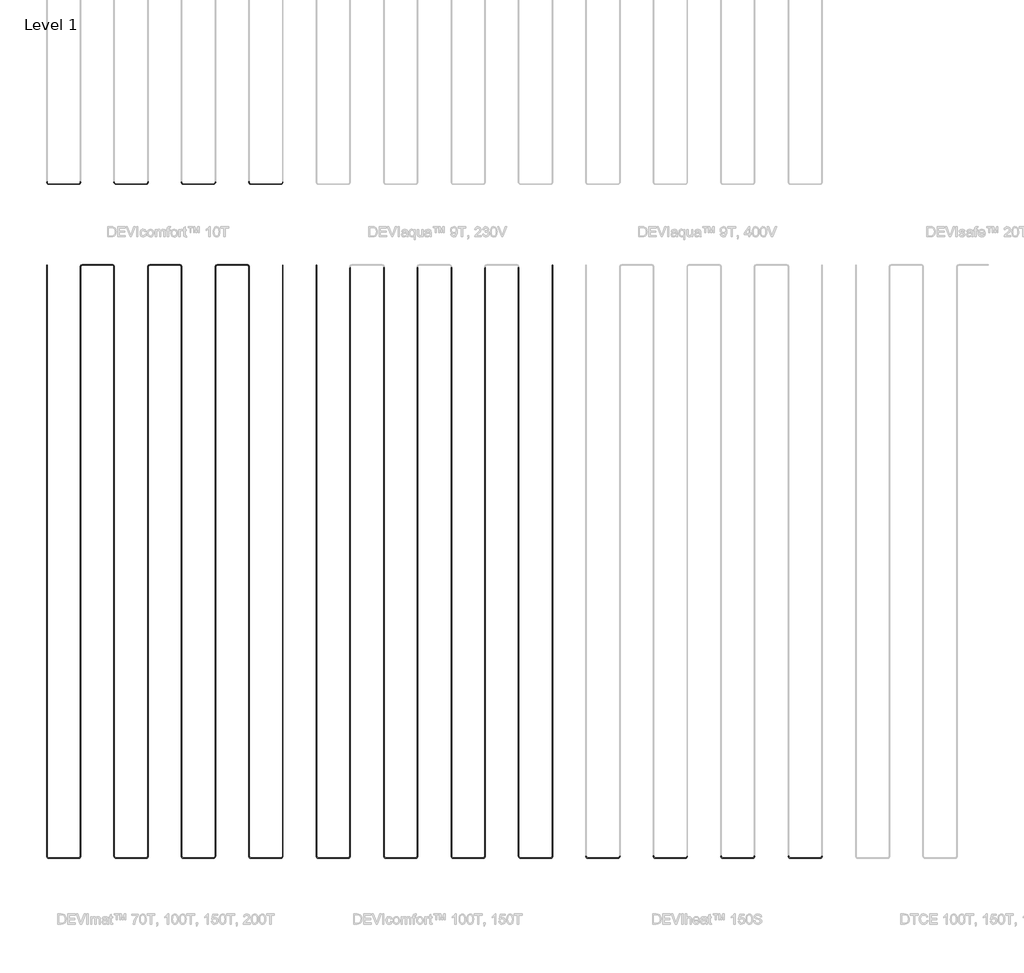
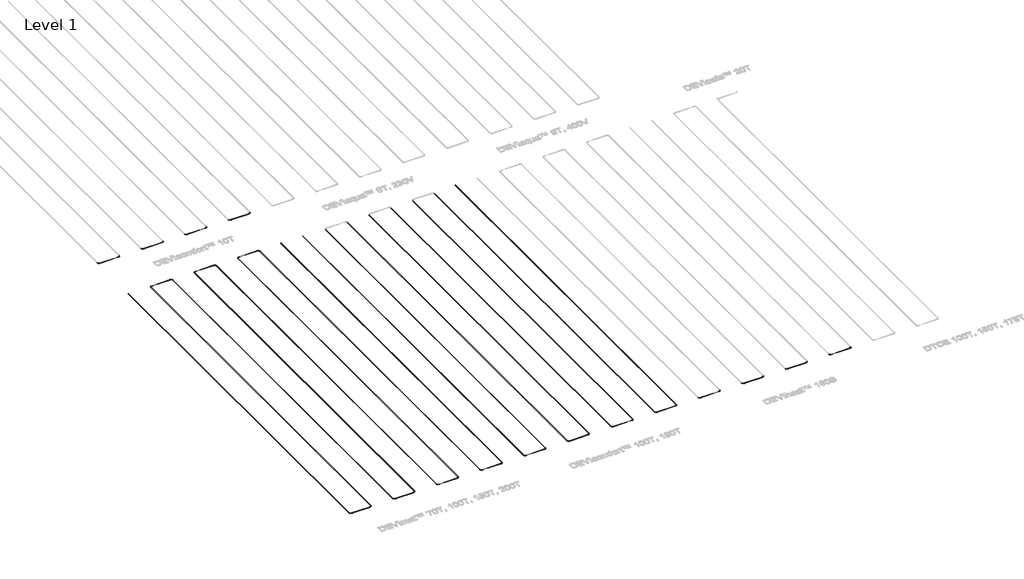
# One storey, part 1 of 26: 38 cable carrier fittings, 35 cable carrier segments.
"""IFC4 building model written with IfcOpenShell, lengths in millimetres."""

from ifc_helpers import new_model, si_unit, point, frame, frame_2d, origin, place, context, project, spatial, circle_curve, trimmed, segment, composite_curve, outline, extrude, transform, mapped, element, save
from components import cable_carrier_fitting_e4b1aeb6

model = new_model("IFC4")

# Units and contexts
model_context = context("Model", 3, world=origin())
ifc_project = project(units=[si_unit("LENGTHUNIT", "METRE", prefix="MILLI")], contexts=[model_context])

# Site, building, storey
site = spatial("IfcSite", under=ifc_project)
building = spatial("IfcBuilding", under=site)
storey = spatial("IfcBuildingStorey", under=building, Name="Level 1", Elevation=0.0)

# Cable carrier fittings
placement = place(None, origin())
cable_carrier_fitting_shape = cable_carrier_fitting_e4b1aeb6(model_context)
element("IfcCableCarrierFitting", 1, ObjectType="Danfoss Elbow : DEVIbasic™ 10S", at=placement, inside=storey, context=model_context, shape_type="MappedRepresentation", body=[
    mapped(cable_carrier_fitting_shape, transform((-11587.3402445, -16738.7894079, -100.0), x_axis=(0.0, -1.0, 0.0), y_axis=(1.0, 0.0, 0.0), z_axis=(0.0, 0.0, 1.0))),
])
element("IfcCableCarrierFitting", 2, ObjectType="Danfoss Elbow : DEVIbasic™ 10S", at=placement, inside=storey, context=model_context, shape_type="MappedRepresentation", body=[
    mapped(cable_carrier_fitting_shape, transform((-11087.3402445, -16738.7894079, -100.0), x_axis=(1.0, 0.0, 0.0), y_axis=(0.0, 1.0, 0.0), z_axis=(0.0, 0.0, 1.0))),
])
element("IfcCableCarrierFitting", 3, ObjectType="Danfoss Elbow : DEVIbasic™ 10S", at=placement, inside=storey, context=model_context, shape_type="MappedRepresentation", body=[
    mapped(cable_carrier_fitting_shape, transform((-10587.3402445, -16738.7894079, -100.0), x_axis=(0.0, -1.0, 0.0), y_axis=(1.0, 0.0, 0.0), z_axis=(0.0, 0.0, 1.0))),
])
element("IfcCableCarrierFitting", 4, ObjectType="Danfoss Elbow : DEVIbasic™ 10S", at=placement, inside=storey, context=model_context, shape_type="MappedRepresentation", body=[
    mapped(cable_carrier_fitting_shape, transform((-10087.3402445, -16738.7894079, -100.0), x_axis=(1.0, 0.0, 0.0), y_axis=(0.0, 1.0, 0.0), z_axis=(0.0, 0.0, 1.0))),
])
element("IfcCableCarrierFitting", 5, ObjectType="Danfoss Elbow : DEVIbasic™ 10S", at=placement, inside=storey, context=model_context, shape_type="MappedRepresentation", body=[
    mapped(cable_carrier_fitting_shape, transform((-9587.3402445, -16738.7894079, -100.0), x_axis=(0.0, -1.0, 0.0), y_axis=(1.0, 0.0, 0.0), z_axis=(0.0, 0.0, 1.0))),
])
element("IfcCableCarrierFitting", 6, ObjectType="Danfoss Elbow : DEVIbasic™ 10S", at=placement, inside=storey, context=model_context, shape_type="MappedRepresentation", body=[
    mapped(cable_carrier_fitting_shape, transform((-9087.3402445, -16738.7894079, -100.0), x_axis=(1.0, 0.0, 0.0), y_axis=(0.0, 1.0, 0.0), z_axis=(0.0, 0.0, 1.0))),
])
element("IfcCableCarrierFitting", 7, ObjectType="Danfoss Elbow : DEVIbasic™ 10S", at=placement, inside=storey, context=model_context, shape_type="MappedRepresentation", body=[
    mapped(cable_carrier_fitting_shape, transform((-8587.3402445, -16738.7894079, -100.0), x_axis=(0.0, -1.0, 0.0), y_axis=(1.0, 0.0, 0.0), z_axis=(0.0, 0.0, 1.0))),
])
element("IfcCableCarrierFitting", 8, ObjectType="Danfoss Elbow : DEVIbasic™ 10S", at=placement, inside=storey, context=model_context, shape_type="MappedRepresentation", body=[
    mapped(cable_carrier_fitting_shape, transform((-8087.3402445, -16738.7894079, -100.0), x_axis=(1.0, 0.0, 0.0), y_axis=(0.0, 1.0, 0.0), z_axis=(0.0, 0.0, 1.0))),
])
element("IfcCableCarrierFitting", 9, ObjectType="Danfoss Elbow : DEVIaqua™ 9T, 230V", at=placement, inside=storey, context=model_context, shape_type="MappedRepresentation", body=[
    mapped(cable_carrier_fitting_shape, transform((-7587.3402445, -26738.7894079, -100.0), x_axis=(0.0, -1.0, 0.0), y_axis=(1.0, 0.0, 0.0), z_axis=(0.0, 0.0, 1.0))),
])
element("IfcCableCarrierFitting", 10, ObjectType="Danfoss Elbow : DEVIaqua™ 9T, 230V", at=placement, inside=storey, context=model_context, shape_type="MappedRepresentation", body=[
    mapped(cable_carrier_fitting_shape, transform((-7087.3402445, -26738.7894079, -100.0), x_axis=(1.0, 0.0, 0.0), y_axis=(0.0, 1.0, 0.0), z_axis=(0.0, 0.0, 1.0))),
])
element("IfcCableCarrierFitting", 11, ObjectType="Danfoss Elbow : DEVIaqua™ 9T, 230V", at=placement, inside=storey, context=model_context, shape_type="MappedRepresentation", body=[
    mapped(cable_carrier_fitting_shape, transform((-6587.3402445, -26738.7894079, -100.0), x_axis=(0.0, -1.0, 0.0), y_axis=(1.0, 0.0, 0.0), z_axis=(0.0, 0.0, 1.0))),
])
element("IfcCableCarrierFitting", 12, ObjectType="Danfoss Elbow : DEVIaqua™ 9T, 230V", at=placement, inside=storey, context=model_context, shape_type="MappedRepresentation", body=[
    mapped(cable_carrier_fitting_shape, transform((-6087.3402445, -26738.7894079, -100.0), x_axis=(1.0, 0.0, 0.0), y_axis=(0.0, 1.0, 0.0), z_axis=(0.0, 0.0, 1.0))),
])
element("IfcCableCarrierFitting", 13, ObjectType="Danfoss Elbow : DEVIaqua™ 9T, 230V", at=placement, inside=storey, context=model_context, shape_type="MappedRepresentation", body=[
    mapped(cable_carrier_fitting_shape, transform((-5587.3402445, -26738.7894079, -100.0), x_axis=(0.0, -1.0, 0.0), y_axis=(1.0, 0.0, 0.0), z_axis=(0.0, 0.0, 1.0))),
])
element("IfcCableCarrierFitting", 14, ObjectType="Danfoss Elbow : DEVIaqua™ 9T, 230V", at=placement, inside=storey, context=model_context, shape_type="MappedRepresentation", body=[
    mapped(cable_carrier_fitting_shape, transform((-5087.3402445, -26738.7894079, -100.0), x_axis=(1.0, 0.0, 0.0), y_axis=(0.0, 1.0, 0.0), z_axis=(0.0, 0.0, 1.0))),
])
element("IfcCableCarrierFitting", 15, ObjectType="Danfoss Elbow : DEVIaqua™ 9T, 230V", at=placement, inside=storey, context=model_context, shape_type="MappedRepresentation", body=[
    mapped(cable_carrier_fitting_shape, transform((-4587.3402445, -26738.7894079, -100.0), x_axis=(0.0, -1.0, 0.0), y_axis=(1.0, 0.0, 0.0), z_axis=(0.0, 0.0, 1.0))),
])
element("IfcCableCarrierFitting", 16, ObjectType="Danfoss Elbow : DEVIaqua™ 9T, 230V", at=placement, inside=storey, context=model_context, shape_type="MappedRepresentation", body=[
    mapped(cable_carrier_fitting_shape, transform((-4087.3402445, -26738.7894079, -100.0), x_axis=(1.0, 0.0, 0.0), y_axis=(0.0, 1.0, 0.0), z_axis=(0.0, 0.0, 1.0))),
])
element("IfcCableCarrierFitting", 17, ObjectType="Danfoss Elbow : DEVIaqua™ 9T, 400V", at=placement, inside=storey, context=model_context, shape_type="MappedRepresentation", body=[
    mapped(cable_carrier_fitting_shape, transform((-3587.3402445, -26738.7894079, -100.0), x_axis=(0.0, -1.0, 0.0), y_axis=(1.0, 0.0, 0.0), z_axis=(0.0, 0.0, 1.0))),
])
element("IfcCableCarrierFitting", 18, ObjectType="Danfoss Elbow : DEVIaqua™ 9T, 400V", at=placement, inside=storey, context=model_context, shape_type="MappedRepresentation", body=[
    mapped(cable_carrier_fitting_shape, transform((-3087.3402445, -26738.7894079, -100.0), x_axis=(1.0, 0.0, 0.0), y_axis=(0.0, 1.0, 0.0), z_axis=(0.0, 0.0, 1.0))),
])
element("IfcCableCarrierFitting", 19, ObjectType="Danfoss Elbow : DEVIaqua™ 9T, 400V", at=placement, inside=storey, context=model_context, shape_type="MappedRepresentation", body=[
    mapped(cable_carrier_fitting_shape, transform((-2587.3402445, -26738.7894079, -100.0), x_axis=(0.0, -1.0, 0.0), y_axis=(1.0, 0.0, 0.0), z_axis=(0.0, 0.0, 1.0))),
])
element("IfcCableCarrierFitting", 20, ObjectType="Danfoss Elbow : DEVIaqua™ 9T, 400V", at=placement, inside=storey, context=model_context, shape_type="MappedRepresentation", body=[
    mapped(cable_carrier_fitting_shape, transform((-2087.3402445, -26738.7894079, -100.0), x_axis=(1.0, 0.0, 0.0), y_axis=(0.0, 1.0, 0.0), z_axis=(0.0, 0.0, 1.0))),
])
element("IfcCableCarrierFitting", 21, ObjectType="Danfoss Elbow : DEVIaqua™ 9T, 400V", at=placement, inside=storey, context=model_context, shape_type="MappedRepresentation", body=[
    mapped(cable_carrier_fitting_shape, transform((-1587.3402445, -26738.7894079, -100.0), x_axis=(0.0, -1.0, 0.0), y_axis=(1.0, 0.0, 0.0), z_axis=(0.0, 0.0, 1.0))),
])
element("IfcCableCarrierFitting", 22, ObjectType="Danfoss Elbow : DEVIaqua™ 9T, 400V", at=placement, inside=storey, context=model_context, shape_type="MappedRepresentation", body=[
    mapped(cable_carrier_fitting_shape, transform((-1087.3402445, -26738.7894079, -100.0), x_axis=(1.0, 0.0, 0.0), y_axis=(0.0, 1.0, 0.0), z_axis=(0.0, 0.0, 1.0))),
])
element("IfcCableCarrierFitting", 23, ObjectType="Danfoss Elbow : DEVIaqua™ 9T, 400V", at=placement, inside=storey, context=model_context, shape_type="MappedRepresentation", body=[
    mapped(cable_carrier_fitting_shape, transform((-587.3402445, -26738.7894079, -100.0), x_axis=(0.0, -1.0, 0.0), y_axis=(1.0, 0.0, 0.0), z_axis=(0.0, 0.0, 1.0))),
])
element("IfcCableCarrierFitting", 24, ObjectType="Danfoss Elbow : DEVIaqua™ 9T, 400V", at=placement, inside=storey, context=model_context, shape_type="MappedRepresentation", body=[
    mapped(cable_carrier_fitting_shape, transform((-87.3402445, -26738.7894079, -100.0), x_axis=(1.0, 0.0, 0.0), y_axis=(0.0, 1.0, 0.0), z_axis=(0.0, 0.0, 1.0))),
])
element("IfcCableCarrierFitting", 25, ObjectType="Danfoss Elbow : DEVIcomfort™ 10T", at=placement, inside=storey, context=model_context, shape_type="MappedRepresentation", body=[
    mapped(cable_carrier_fitting_shape, transform((-11587.3402445, -26738.7894079, -100.0), x_axis=(0.0, -1.0, 0.0), y_axis=(1.0, 0.0, 0.0), z_axis=(0.0, 0.0, 1.0))),
])
element("IfcCableCarrierFitting", 26, ObjectType="Danfoss Elbow : DEVIcomfort™ 10T", at=placement, inside=storey, context=model_context, shape_type="MappedRepresentation", body=[
    mapped(cable_carrier_fitting_shape, transform((-11087.3402445, -26738.7894079, -100.0), x_axis=(1.0, 0.0, 0.0), y_axis=(0.0, 1.0, 0.0), z_axis=(0.0, 0.0, 1.0))),
])
element("IfcCableCarrierFitting", 27, ObjectType="Danfoss Elbow : DEVIcomfort™ 10T", at=placement, inside=storey, context=model_context, shape_type="MappedRepresentation", body=[
    mapped(cable_carrier_fitting_shape, transform((-11087.3402445, -17938.7894079, -100.0), x_axis=(-1.0, 0.0, 0.0), y_axis=(0.0, -1.0, 0.0), z_axis=(0.0, 0.0, 1.0))),
])
element("IfcCableCarrierFitting", 28, ObjectType="Danfoss Elbow : DEVIcomfort™ 10T", at=placement, inside=storey, context=model_context, shape_type="MappedRepresentation", body=[
    mapped(cable_carrier_fitting_shape, transform((-10587.3402445, -17938.7894079, -100.0), x_axis=(0.0, 1.0, 0.0), y_axis=(-1.0, 0.0, 0.0), z_axis=(0.0, 0.0, 1.0))),
])
element("IfcCableCarrierFitting", 29, ObjectType="Danfoss Elbow : DEVIcomfort™ 10T", at=placement, inside=storey, context=model_context, shape_type="MappedRepresentation", body=[
    mapped(cable_carrier_fitting_shape, transform((-10587.3402445, -26738.7894079, -100.0), x_axis=(0.0, -1.0, 0.0), y_axis=(1.0, 0.0, 0.0), z_axis=(0.0, 0.0, 1.0))),
])
element("IfcCableCarrierFitting", 30, ObjectType="Danfoss Elbow : DEVIcomfort™ 10T", at=placement, inside=storey, context=model_context, shape_type="MappedRepresentation", body=[
    mapped(cable_carrier_fitting_shape, transform((-10087.3402445, -26738.7894079, -100.0), x_axis=(1.0, 0.0, 0.0), y_axis=(0.0, 1.0, 0.0), z_axis=(0.0, 0.0, 1.0))),
])
element("IfcCableCarrierFitting", 31, ObjectType="Danfoss Elbow : DEVIcomfort™ 10T", at=placement, inside=storey, context=model_context, shape_type="MappedRepresentation", body=[
    mapped(cable_carrier_fitting_shape, transform((-10087.3402445, -17938.7894079, -100.0), x_axis=(-1.0, 0.0, 0.0), y_axis=(0.0, -1.0, 0.0), z_axis=(0.0, 0.0, 1.0))),
])
element("IfcCableCarrierFitting", 32, ObjectType="Danfoss Elbow : DEVIcomfort™ 10T", at=placement, inside=storey, context=model_context, shape_type="MappedRepresentation", body=[
    mapped(cable_carrier_fitting_shape, transform((-9587.3402445, -17938.7894079, -100.0), x_axis=(0.0, 1.0, 0.0), y_axis=(-1.0, 0.0, 0.0), z_axis=(0.0, 0.0, 1.0))),
])
element("IfcCableCarrierFitting", 33, ObjectType="Danfoss Elbow : DEVIcomfort™ 10T", at=placement, inside=storey, context=model_context, shape_type="MappedRepresentation", body=[
    mapped(cable_carrier_fitting_shape, transform((-9587.3402445, -26738.7894079, -100.0), x_axis=(0.0, -1.0, 0.0), y_axis=(1.0, 0.0, 0.0), z_axis=(0.0, 0.0, 1.0))),
])
element("IfcCableCarrierFitting", 34, ObjectType="Danfoss Elbow : DEVIcomfort™ 10T", at=placement, inside=storey, context=model_context, shape_type="MappedRepresentation", body=[
    mapped(cable_carrier_fitting_shape, transform((-9087.3402445, -26738.7894079, -100.0), x_axis=(1.0, 0.0, 0.0), y_axis=(0.0, 1.0, 0.0), z_axis=(0.0, 0.0, 1.0))),
])
element("IfcCableCarrierFitting", 35, ObjectType="Danfoss Elbow : DEVIcomfort™ 10T", at=placement, inside=storey, context=model_context, shape_type="MappedRepresentation", body=[
    mapped(cable_carrier_fitting_shape, transform((-9087.3402445, -17938.7894079, -100.0), x_axis=(-1.0, 0.0, 0.0), y_axis=(0.0, -1.0, 0.0), z_axis=(0.0, 0.0, 1.0))),
])
element("IfcCableCarrierFitting", 36, ObjectType="Danfoss Elbow : DEVIcomfort™ 10T", at=placement, inside=storey, context=model_context, shape_type="MappedRepresentation", body=[
    mapped(cable_carrier_fitting_shape, transform((-8587.3402445, -17938.7894079, -100.0), x_axis=(0.0, 1.0, 0.0), y_axis=(-1.0, 0.0, 0.0), z_axis=(0.0, 0.0, 1.0))),
])
element("IfcCableCarrierFitting", 37, ObjectType="Danfoss Elbow : DEVIcomfort™ 10T", at=placement, inside=storey, context=model_context, shape_type="MappedRepresentation", body=[
    mapped(cable_carrier_fitting_shape, transform((-8587.3402445, -26738.7894079, -100.0), x_axis=(0.0, -1.0, 0.0), y_axis=(1.0, 0.0, 0.0), z_axis=(0.0, 0.0, 1.0))),
])
element("IfcCableCarrierFitting", 38, ObjectType="Danfoss Elbow : DEVIcomfort™ 10T", at=placement, inside=storey, context=model_context, shape_type="MappedRepresentation", body=[
    mapped(cable_carrier_fitting_shape, transform((-8087.3402445, -26738.7894079, -100.0), x_axis=(1.0, 0.0, 0.0), y_axis=(0.0, 1.0, 0.0), z_axis=(0.0, 0.0, 1.0))),
])

# Cable carrier segments
element("IfcCableCarrierSegment", 39, ObjectType="DEVIbasic™ 10S", at=placement, inside=storey, context=model_context, shape_type="SweptSolid", body=[
    extrude(outline(composite_curve([segment(trimmed(circle_curve(frame_2d((-16738.7894079, -100.0)), 3.45), [point((-16742.2394079, -100.0))], [point((-16738.7894079, -96.55))], False, "CARTESIAN"), True, "CONTINUOUS"), segment(trimmed(circle_curve(frame_2d((-16738.7894079, -100.0)), 3.45), [point((-16738.7894079, -96.55))], [point((-16735.3394079, -100.0))], False, "CARTESIAN"), True, "CONTINUOUS"), segment(trimmed(circle_curve(frame_2d((-16738.7894079, -100.0)), 3.45), [point((-16735.3394079, -100.0))], [point((-16738.7894079, -103.45))], False, "CARTESIAN"), True, "CONTINUOUS"), segment(trimmed(circle_curve(frame_2d((-16738.7894079, -100.0)), 3.45), [point((-16738.7894079, -103.45))], [point((-16742.2394079, -100.0))], False, "CARTESIAN"), True, "CONTINUOUS")], self_intersect=False)), frame((-11552.3402445, 0.0, 0.0), z_axis=(1.0, 0.0, 0.0), x_axis=(0.0, 1.0, 0.0)), (0.0, 0.0, 1.0), 430.0),
])
element("IfcCableCarrierSegment", 40, ObjectType="DEVIbasic™ 10S", at=placement, inside=storey, context=model_context, shape_type="SweptSolid", body=[
    extrude(outline(composite_curve([segment(trimmed(circle_curve(frame_2d((-16738.7894079, -100.0)), 3.45), [point((-16742.2394079, -100.0))], [point((-16738.7894079, -96.55))], False, "CARTESIAN"), True, "CONTINUOUS"), segment(trimmed(circle_curve(frame_2d((-16738.7894079, -100.0)), 3.45), [point((-16738.7894079, -96.55))], [point((-16735.3394079, -100.0))], False, "CARTESIAN"), True, "CONTINUOUS"), segment(trimmed(circle_curve(frame_2d((-16738.7894079, -100.0)), 3.45), [point((-16735.3394079, -100.0))], [point((-16738.7894079, -103.45))], False, "CARTESIAN"), True, "CONTINUOUS"), segment(trimmed(circle_curve(frame_2d((-16738.7894079, -100.0)), 3.45), [point((-16738.7894079, -103.45))], [point((-16742.2394079, -100.0))], False, "CARTESIAN"), True, "CONTINUOUS")], self_intersect=False)), frame((-10552.3402445, 0.0, 0.0), z_axis=(1.0, 0.0, 0.0), x_axis=(0.0, 1.0, 0.0)), (0.0, 0.0, 1.0), 430.0),
])
element("IfcCableCarrierSegment", 41, ObjectType="DEVIbasic™ 10S", at=placement, inside=storey, context=model_context, shape_type="SweptSolid", body=[
    extrude(outline(composite_curve([segment(trimmed(circle_curve(frame_2d((-16738.7894079, -100.0)), 3.45), [point((-16742.2394079, -100.0))], [point((-16738.7894079, -96.55))], False, "CARTESIAN"), True, "CONTINUOUS"), segment(trimmed(circle_curve(frame_2d((-16738.7894079, -100.0)), 3.45), [point((-16738.7894079, -96.55))], [point((-16735.3394079, -100.0))], False, "CARTESIAN"), True, "CONTINUOUS"), segment(trimmed(circle_curve(frame_2d((-16738.7894079, -100.0)), 3.45), [point((-16735.3394079, -100.0))], [point((-16738.7894079, -103.45))], False, "CARTESIAN"), True, "CONTINUOUS"), segment(trimmed(circle_curve(frame_2d((-16738.7894079, -100.0)), 3.45), [point((-16738.7894079, -103.45))], [point((-16742.2394079, -100.0))], False, "CARTESIAN"), True, "CONTINUOUS")], self_intersect=False)), frame((-9552.3402445, 0.0, 0.0), z_axis=(1.0, 0.0, 0.0), x_axis=(0.0, 1.0, 0.0)), (0.0, 0.0, 1.0), 430.0),
])
element("IfcCableCarrierSegment", 42, ObjectType="DEVIbasic™ 10S", at=placement, inside=storey, context=model_context, shape_type="SweptSolid", body=[
    extrude(outline(composite_curve([segment(trimmed(circle_curve(frame_2d((-16738.7894079, -100.0)), 3.45), [point((-16742.2394079, -100.0))], [point((-16738.7894079, -96.55))], False, "CARTESIAN"), True, "CONTINUOUS"), segment(trimmed(circle_curve(frame_2d((-16738.7894079, -100.0)), 3.45), [point((-16738.7894079, -96.55))], [point((-16735.3394079, -100.0))], False, "CARTESIAN"), True, "CONTINUOUS"), segment(trimmed(circle_curve(frame_2d((-16738.7894079, -100.0)), 3.45), [point((-16735.3394079, -100.0))], [point((-16738.7894079, -103.45))], False, "CARTESIAN"), True, "CONTINUOUS"), segment(trimmed(circle_curve(frame_2d((-16738.7894079, -100.0)), 3.45), [point((-16738.7894079, -103.45))], [point((-16742.2394079, -100.0))], False, "CARTESIAN"), True, "CONTINUOUS")], self_intersect=False)), frame((-8552.3402445, 0.0, 0.0), z_axis=(1.0, 0.0, 0.0), x_axis=(0.0, 1.0, 0.0)), (0.0, 0.0, 1.0), 430.0),
])
element("IfcCableCarrierSegment", 43, ObjectType="DEVIcomfort™ 10T", at=placement, inside=storey, context=model_context, shape_type="SweptSolid", body=[
    extrude(outline(composite_curve([segment(trimmed(circle_curve(frame_2d((-100.0, -11587.3402445)), 3.45), [point((-100.0, -11590.7902445))], [point((-103.45, -11587.3402445))], False, "CARTESIAN"), True, "CONTINUOUS"), segment(trimmed(circle_curve(frame_2d((-100.0, -11587.3402445)), 3.45), [point((-103.45, -11587.3402445))], [point((-100.0, -11583.8902445))], False, "CARTESIAN"), True, "CONTINUOUS"), segment(trimmed(circle_curve(frame_2d((-100.0, -11587.3402445)), 3.45), [point((-100.0, -11583.8902445))], [point((-96.55, -11587.3402445))], False, "CARTESIAN"), True, "CONTINUOUS"), segment(trimmed(circle_curve(frame_2d((-100.0, -11587.3402445)), 3.45), [point((-96.55, -11587.3402445))], [point((-100.0, -11590.7902445))], False, "CARTESIAN"), True, "CONTINUOUS")], self_intersect=False)), frame((0.0, -26703.7894079, 0.0), z_axis=(0.0, 1.0, 0.0), x_axis=(0.0, 0.0, 1.0)), (0.0, 0.0, 1.0), 8765.0),
])
element("IfcCableCarrierSegment", 44, ObjectType="DEVIcomfort™ 10T", at=placement, inside=storey, context=model_context, shape_type="SweptSolid", body=[
    extrude(outline(composite_curve([segment(trimmed(circle_curve(frame_2d((-26738.7894079, -100.0)), 3.45), [point((-26742.2394079, -100.0))], [point((-26738.7894079, -96.55))], False, "CARTESIAN"), True, "CONTINUOUS"), segment(trimmed(circle_curve(frame_2d((-26738.7894079, -100.0)), 3.45), [point((-26738.7894079, -96.55))], [point((-26735.3394079, -100.0))], False, "CARTESIAN"), True, "CONTINUOUS"), segment(trimmed(circle_curve(frame_2d((-26738.7894079, -100.0)), 3.45), [point((-26735.3394079, -100.0))], [point((-26738.7894079, -103.45))], False, "CARTESIAN"), True, "CONTINUOUS"), segment(trimmed(circle_curve(frame_2d((-26738.7894079, -100.0)), 3.45), [point((-26738.7894079, -103.45))], [point((-26742.2394079, -100.0))], False, "CARTESIAN"), True, "CONTINUOUS")], self_intersect=False)), frame((-11552.3402445, 0.0, 0.0), z_axis=(1.0, 0.0, 0.0), x_axis=(0.0, 1.0, 0.0)), (0.0, 0.0, 1.0), 430.0),
])
element("IfcCableCarrierSegment", 45, ObjectType="DEVIcomfort™ 10T", at=placement, inside=storey, context=model_context, shape_type="SweptSolid", body=[
    extrude(outline(composite_curve([segment(trimmed(circle_curve(frame_2d((-100.0, -11087.3402445)), 3.45), [point((-100.0, -11083.8902445))], [point((-96.55, -11087.3402445))], False, "CARTESIAN"), True, "CONTINUOUS"), segment(trimmed(circle_curve(frame_2d((-100.0, -11087.3402445)), 3.45), [point((-96.55, -11087.3402445))], [point((-100.0, -11090.7902445))], False, "CARTESIAN"), True, "CONTINUOUS"), segment(trimmed(circle_curve(frame_2d((-100.0, -11087.3402445)), 3.45), [point((-100.0, -11090.7902445))], [point((-103.45, -11087.3402445))], False, "CARTESIAN"), True, "CONTINUOUS"), segment(trimmed(circle_curve(frame_2d((-100.0, -11087.3402445)), 3.45), [point((-103.45, -11087.3402445))], [point((-100.0, -11083.8902445))], False, "CARTESIAN"), True, "CONTINUOUS")], self_intersect=False)), frame((0.0, -26703.7894079, 0.0), z_axis=(0.0, 1.0, 0.0), x_axis=(0.0, 0.0, 1.0)), (0.0, 0.0, 1.0), 8730.0),
])
element("IfcCableCarrierSegment", 46, ObjectType="DEVIcomfort™ 10T", at=placement, inside=storey, context=model_context, shape_type="SweptSolid", body=[
    extrude(outline(composite_curve([segment(trimmed(circle_curve(frame_2d((-17938.7894079, -100.0)), 3.45), [point((-17942.2394079, -100.0))], [point((-17938.7894079, -96.55))], False, "CARTESIAN"), True, "CONTINUOUS"), segment(trimmed(circle_curve(frame_2d((-17938.7894079, -100.0)), 3.45), [point((-17938.7894079, -96.55))], [point((-17935.3394079, -100.0))], False, "CARTESIAN"), True, "CONTINUOUS"), segment(trimmed(circle_curve(frame_2d((-17938.7894079, -100.0)), 3.45), [point((-17935.3394079, -100.0))], [point((-17938.7894079, -103.45))], False, "CARTESIAN"), True, "CONTINUOUS"), segment(trimmed(circle_curve(frame_2d((-17938.7894079, -100.0)), 3.45), [point((-17938.7894079, -103.45))], [point((-17942.2394079, -100.0))], False, "CARTESIAN"), True, "CONTINUOUS")], self_intersect=False)), frame((-11052.3402445, 0.0, 0.0), z_axis=(1.0, 0.0, 0.0), x_axis=(0.0, 1.0, 0.0)), (0.0, 0.0, 1.0), 430.0),
])
element("IfcCableCarrierSegment", 47, ObjectType="DEVIcomfort™ 10T", at=placement, inside=storey, context=model_context, shape_type="SweptSolid", body=[
    extrude(outline(composite_curve([segment(trimmed(circle_curve(frame_2d((-100.0, -10587.3402445)), 3.45), [point((-100.0, -10590.7902445))], [point((-103.45, -10587.3402445))], False, "CARTESIAN"), True, "CONTINUOUS"), segment(trimmed(circle_curve(frame_2d((-100.0, -10587.3402445)), 3.45), [point((-103.45, -10587.3402445))], [point((-100.0, -10583.8902445))], False, "CARTESIAN"), True, "CONTINUOUS"), segment(trimmed(circle_curve(frame_2d((-100.0, -10587.3402445)), 3.45), [point((-100.0, -10583.8902445))], [point((-96.55, -10587.3402445))], False, "CARTESIAN"), True, "CONTINUOUS"), segment(trimmed(circle_curve(frame_2d((-100.0, -10587.3402445)), 3.45), [point((-96.55, -10587.3402445))], [point((-100.0, -10590.7902445))], False, "CARTESIAN"), True, "CONTINUOUS")], self_intersect=False)), frame((0.0, -26703.7894079, 0.0), z_axis=(0.0, 1.0, 0.0), x_axis=(0.0, 0.0, 1.0)), (0.0, 0.0, 1.0), 8730.0),
])
element("IfcCableCarrierSegment", 48, ObjectType="DEVIcomfort™ 10T", at=placement, inside=storey, context=model_context, shape_type="SweptSolid", body=[
    extrude(outline(composite_curve([segment(trimmed(circle_curve(frame_2d((-26738.7894079, -100.0)), 3.45), [point((-26742.2394079, -100.0))], [point((-26738.7894079, -96.55))], False, "CARTESIAN"), True, "CONTINUOUS"), segment(trimmed(circle_curve(frame_2d((-26738.7894079, -100.0)), 3.45), [point((-26738.7894079, -96.55))], [point((-26735.3394079, -100.0))], False, "CARTESIAN"), True, "CONTINUOUS"), segment(trimmed(circle_curve(frame_2d((-26738.7894079, -100.0)), 3.45), [point((-26735.3394079, -100.0))], [point((-26738.7894079, -103.45))], False, "CARTESIAN"), True, "CONTINUOUS"), segment(trimmed(circle_curve(frame_2d((-26738.7894079, -100.0)), 3.45), [point((-26738.7894079, -103.45))], [point((-26742.2394079, -100.0))], False, "CARTESIAN"), True, "CONTINUOUS")], self_intersect=False)), frame((-10552.3402445, 0.0, 0.0), z_axis=(1.0, 0.0, 0.0), x_axis=(0.0, 1.0, 0.0)), (0.0, 0.0, 1.0), 430.0),
])
element("IfcCableCarrierSegment", 49, ObjectType="DEVIcomfort™ 10T", at=placement, inside=storey, context=model_context, shape_type="SweptSolid", body=[
    extrude(outline(composite_curve([segment(trimmed(circle_curve(frame_2d((-100.0, -10087.3402445)), 3.45), [point((-100.0, -10083.8902445))], [point((-96.55, -10087.3402445))], False, "CARTESIAN"), True, "CONTINUOUS"), segment(trimmed(circle_curve(frame_2d((-100.0, -10087.3402445)), 3.45), [point((-96.55, -10087.3402445))], [point((-100.0, -10090.7902445))], False, "CARTESIAN"), True, "CONTINUOUS"), segment(trimmed(circle_curve(frame_2d((-100.0, -10087.3402445)), 3.45), [point((-100.0, -10090.7902445))], [point((-103.45, -10087.3402445))], False, "CARTESIAN"), True, "CONTINUOUS"), segment(trimmed(circle_curve(frame_2d((-100.0, -10087.3402445)), 3.45), [point((-103.45, -10087.3402445))], [point((-100.0, -10083.8902445))], False, "CARTESIAN"), True, "CONTINUOUS")], self_intersect=False)), frame((0.0, -26703.7894079, 0.0), z_axis=(0.0, 1.0, 0.0), x_axis=(0.0, 0.0, 1.0)), (0.0, 0.0, 1.0), 8730.0),
])
element("IfcCableCarrierSegment", 50, ObjectType="DEVIcomfort™ 10T", at=placement, inside=storey, context=model_context, shape_type="SweptSolid", body=[
    extrude(outline(composite_curve([segment(trimmed(circle_curve(frame_2d((-17938.7894079, -100.0)), 3.45), [point((-17942.2394079, -100.0))], [point((-17938.7894079, -96.55))], False, "CARTESIAN"), True, "CONTINUOUS"), segment(trimmed(circle_curve(frame_2d((-17938.7894079, -100.0)), 3.45), [point((-17938.7894079, -96.55))], [point((-17935.3394079, -100.0))], False, "CARTESIAN"), True, "CONTINUOUS"), segment(trimmed(circle_curve(frame_2d((-17938.7894079, -100.0)), 3.45), [point((-17935.3394079, -100.0))], [point((-17938.7894079, -103.45))], False, "CARTESIAN"), True, "CONTINUOUS"), segment(trimmed(circle_curve(frame_2d((-17938.7894079, -100.0)), 3.45), [point((-17938.7894079, -103.45))], [point((-17942.2394079, -100.0))], False, "CARTESIAN"), True, "CONTINUOUS")], self_intersect=False)), frame((-10052.3402445, 0.0, 0.0), z_axis=(1.0, 0.0, 0.0), x_axis=(0.0, 1.0, 0.0)), (0.0, 0.0, 1.0), 430.0),
])
element("IfcCableCarrierSegment", 51, ObjectType="DEVIcomfort™ 10T", at=placement, inside=storey, context=model_context, shape_type="SweptSolid", body=[
    extrude(outline(composite_curve([segment(trimmed(circle_curve(frame_2d((-100.0, -9587.3402445)), 3.45), [point((-100.0, -9590.7902445))], [point((-103.45, -9587.3402445))], False, "CARTESIAN"), True, "CONTINUOUS"), segment(trimmed(circle_curve(frame_2d((-100.0, -9587.3402445)), 3.45), [point((-103.45, -9587.3402445))], [point((-100.0, -9583.8902445))], False, "CARTESIAN"), True, "CONTINUOUS"), segment(trimmed(circle_curve(frame_2d((-100.0, -9587.3402445)), 3.45), [point((-100.0, -9583.8902445))], [point((-96.55, -9587.3402445))], False, "CARTESIAN"), True, "CONTINUOUS"), segment(trimmed(circle_curve(frame_2d((-100.0, -9587.3402445)), 3.45), [point((-96.55, -9587.3402445))], [point((-100.0, -9590.7902445))], False, "CARTESIAN"), True, "CONTINUOUS")], self_intersect=False)), frame((0.0, -26703.7894079, 0.0), z_axis=(0.0, 1.0, 0.0), x_axis=(0.0, 0.0, 1.0)), (0.0, 0.0, 1.0), 8730.0),
])
element("IfcCableCarrierSegment", 52, ObjectType="DEVIcomfort™ 10T", at=placement, inside=storey, context=model_context, shape_type="SweptSolid", body=[
    extrude(outline(composite_curve([segment(trimmed(circle_curve(frame_2d((-26738.7894079, -100.0)), 3.45), [point((-26742.2394079, -100.0))], [point((-26738.7894079, -96.55))], False, "CARTESIAN"), True, "CONTINUOUS"), segment(trimmed(circle_curve(frame_2d((-26738.7894079, -100.0)), 3.45), [point((-26738.7894079, -96.55))], [point((-26735.3394079, -100.0))], False, "CARTESIAN"), True, "CONTINUOUS"), segment(trimmed(circle_curve(frame_2d((-26738.7894079, -100.0)), 3.45), [point((-26735.3394079, -100.0))], [point((-26738.7894079, -103.45))], False, "CARTESIAN"), True, "CONTINUOUS"), segment(trimmed(circle_curve(frame_2d((-26738.7894079, -100.0)), 3.45), [point((-26738.7894079, -103.45))], [point((-26742.2394079, -100.0))], False, "CARTESIAN"), True, "CONTINUOUS")], self_intersect=False)), frame((-9552.3402445, 0.0, 0.0), z_axis=(1.0, 0.0, 0.0), x_axis=(0.0, 1.0, 0.0)), (0.0, 0.0, 1.0), 430.0),
])
element("IfcCableCarrierSegment", 53, ObjectType="DEVIcomfort™ 10T", at=placement, inside=storey, context=model_context, shape_type="SweptSolid", body=[
    extrude(outline(composite_curve([segment(trimmed(circle_curve(frame_2d((-100.0, -9087.3402445)), 3.45), [point((-100.0, -9083.8902445))], [point((-96.55, -9087.3402445))], False, "CARTESIAN"), True, "CONTINUOUS"), segment(trimmed(circle_curve(frame_2d((-100.0, -9087.3402445)), 3.45), [point((-96.55, -9087.3402445))], [point((-100.0, -9090.7902445))], False, "CARTESIAN"), True, "CONTINUOUS"), segment(trimmed(circle_curve(frame_2d((-100.0, -9087.3402445)), 3.45), [point((-100.0, -9090.7902445))], [point((-103.45, -9087.3402445))], False, "CARTESIAN"), True, "CONTINUOUS"), segment(trimmed(circle_curve(frame_2d((-100.0, -9087.3402445)), 3.45), [point((-103.45, -9087.3402445))], [point((-100.0, -9083.8902445))], False, "CARTESIAN"), True, "CONTINUOUS")], self_intersect=False)), frame((0.0, -26703.7894079, 0.0), z_axis=(0.0, 1.0, 0.0), x_axis=(0.0, 0.0, 1.0)), (0.0, 0.0, 1.0), 8730.0),
])
element("IfcCableCarrierSegment", 54, ObjectType="DEVIcomfort™ 10T", at=placement, inside=storey, context=model_context, shape_type="SweptSolid", body=[
    extrude(outline(composite_curve([segment(trimmed(circle_curve(frame_2d((-17938.7894079, -100.0)), 3.45), [point((-17942.2394079, -100.0))], [point((-17938.7894079, -96.55))], False, "CARTESIAN"), True, "CONTINUOUS"), segment(trimmed(circle_curve(frame_2d((-17938.7894079, -100.0)), 3.45), [point((-17938.7894079, -96.55))], [point((-17935.3394079, -100.0))], False, "CARTESIAN"), True, "CONTINUOUS"), segment(trimmed(circle_curve(frame_2d((-17938.7894079, -100.0)), 3.45), [point((-17935.3394079, -100.0))], [point((-17938.7894079, -103.45))], False, "CARTESIAN"), True, "CONTINUOUS"), segment(trimmed(circle_curve(frame_2d((-17938.7894079, -100.0)), 3.45), [point((-17938.7894079, -103.45))], [point((-17942.2394079, -100.0))], False, "CARTESIAN"), True, "CONTINUOUS")], self_intersect=False)), frame((-9052.3402445, 0.0, 0.0), z_axis=(1.0, 0.0, 0.0), x_axis=(0.0, 1.0, 0.0)), (0.0, 0.0, 1.0), 430.0),
])
element("IfcCableCarrierSegment", 55, ObjectType="DEVIcomfort™ 10T", at=placement, inside=storey, context=model_context, shape_type="SweptSolid", body=[
    extrude(outline(composite_curve([segment(trimmed(circle_curve(frame_2d((-100.0, -8587.3402445)), 3.45), [point((-100.0, -8590.7902445))], [point((-103.45, -8587.3402445))], False, "CARTESIAN"), True, "CONTINUOUS"), segment(trimmed(circle_curve(frame_2d((-100.0, -8587.3402445)), 3.45), [point((-103.45, -8587.3402445))], [point((-100.0, -8583.8902445))], False, "CARTESIAN"), True, "CONTINUOUS"), segment(trimmed(circle_curve(frame_2d((-100.0, -8587.3402445)), 3.45), [point((-100.0, -8583.8902445))], [point((-96.55, -8587.3402445))], False, "CARTESIAN"), True, "CONTINUOUS"), segment(trimmed(circle_curve(frame_2d((-100.0, -8587.3402445)), 3.45), [point((-96.55, -8587.3402445))], [point((-100.0, -8590.7902445))], False, "CARTESIAN"), True, "CONTINUOUS")], self_intersect=False)), frame((0.0, -26703.7894079, 0.0), z_axis=(0.0, 1.0, 0.0), x_axis=(0.0, 0.0, 1.0)), (0.0, 0.0, 1.0), 8730.0),
])
element("IfcCableCarrierSegment", 56, ObjectType="DEVIcomfort™ 10T", at=placement, inside=storey, context=model_context, shape_type="SweptSolid", body=[
    extrude(outline(composite_curve([segment(trimmed(circle_curve(frame_2d((-26738.7894079, -100.0)), 3.45), [point((-26742.2394079, -100.0))], [point((-26738.7894079, -96.55))], False, "CARTESIAN"), True, "CONTINUOUS"), segment(trimmed(circle_curve(frame_2d((-26738.7894079, -100.0)), 3.45), [point((-26738.7894079, -96.55))], [point((-26735.3394079, -100.0))], False, "CARTESIAN"), True, "CONTINUOUS"), segment(trimmed(circle_curve(frame_2d((-26738.7894079, -100.0)), 3.45), [point((-26735.3394079, -100.0))], [point((-26738.7894079, -103.45))], False, "CARTESIAN"), True, "CONTINUOUS"), segment(trimmed(circle_curve(frame_2d((-26738.7894079, -100.0)), 3.45), [point((-26738.7894079, -103.45))], [point((-26742.2394079, -100.0))], False, "CARTESIAN"), True, "CONTINUOUS")], self_intersect=False)), frame((-8552.3402445, 0.0, 0.0), z_axis=(1.0, 0.0, 0.0), x_axis=(0.0, 1.0, 0.0)), (0.0, 0.0, 1.0), 430.0),
])
element("IfcCableCarrierSegment", 57, ObjectType="DEVIcomfort™ 10T", at=placement, inside=storey, context=model_context, shape_type="SweptSolid", body=[
    extrude(outline(composite_curve([segment(trimmed(circle_curve(frame_2d((-100.0, -8087.3402445)), 3.45), [point((-100.0, -8083.8902445))], [point((-96.55, -8087.3402445))], False, "CARTESIAN"), True, "CONTINUOUS"), segment(trimmed(circle_curve(frame_2d((-100.0, -8087.3402445)), 3.45), [point((-96.55, -8087.3402445))], [point((-100.0, -8090.7902445))], False, "CARTESIAN"), True, "CONTINUOUS"), segment(trimmed(circle_curve(frame_2d((-100.0, -8087.3402445)), 3.45), [point((-100.0, -8090.7902445))], [point((-103.45, -8087.3402445))], False, "CARTESIAN"), True, "CONTINUOUS"), segment(trimmed(circle_curve(frame_2d((-100.0, -8087.3402445)), 3.45), [point((-103.45, -8087.3402445))], [point((-100.0, -8083.8902445))], False, "CARTESIAN"), True, "CONTINUOUS")], self_intersect=False)), frame((0.0, -26703.7894079, 0.0), z_axis=(0.0, 1.0, 0.0), x_axis=(0.0, 0.0, 1.0)), (0.0, 0.0, 1.0), 8765.0),
])
element("IfcCableCarrierSegment", 58, ObjectType="DEVIaqua™ 9T, 230V", at=placement, inside=storey, context=model_context, shape_type="SweptSolid", body=[
    extrude(outline(composite_curve([segment(trimmed(circle_curve(frame_2d((-100.0, -7587.3402445)), 3.45), [point((-100.0, -7590.7902445))], [point((-103.45, -7587.3402445))], False, "CARTESIAN"), True, "CONTINUOUS"), segment(trimmed(circle_curve(frame_2d((-100.0, -7587.3402445)), 3.45), [point((-103.45, -7587.3402445))], [point((-100.0, -7583.8902445))], False, "CARTESIAN"), True, "CONTINUOUS"), segment(trimmed(circle_curve(frame_2d((-100.0, -7587.3402445)), 3.45), [point((-100.0, -7583.8902445))], [point((-96.55, -7587.3402445))], False, "CARTESIAN"), True, "CONTINUOUS"), segment(trimmed(circle_curve(frame_2d((-100.0, -7587.3402445)), 3.45), [point((-96.55, -7587.3402445))], [point((-100.0, -7590.7902445))], False, "CARTESIAN"), True, "CONTINUOUS")], self_intersect=False)), frame((0.0, -26703.7894079, 0.0), z_axis=(0.0, 1.0, 0.0), x_axis=(0.0, 0.0, 1.0)), (0.0, 0.0, 1.0), 8765.0),
])
element("IfcCableCarrierSegment", 59, ObjectType="DEVIaqua™ 9T, 230V", at=placement, inside=storey, context=model_context, shape_type="SweptSolid", body=[
    extrude(outline(composite_curve([segment(trimmed(circle_curve(frame_2d((-26738.7894079, -100.0)), 3.45), [point((-26742.2394079, -100.0))], [point((-26738.7894079, -96.55))], False, "CARTESIAN"), True, "CONTINUOUS"), segment(trimmed(circle_curve(frame_2d((-26738.7894079, -100.0)), 3.45), [point((-26738.7894079, -96.55))], [point((-26735.3394079, -100.0))], False, "CARTESIAN"), True, "CONTINUOUS"), segment(trimmed(circle_curve(frame_2d((-26738.7894079, -100.0)), 3.45), [point((-26735.3394079, -100.0))], [point((-26738.7894079, -103.45))], False, "CARTESIAN"), True, "CONTINUOUS"), segment(trimmed(circle_curve(frame_2d((-26738.7894079, -100.0)), 3.45), [point((-26738.7894079, -103.45))], [point((-26742.2394079, -100.0))], False, "CARTESIAN"), True, "CONTINUOUS")], self_intersect=False)), frame((-7552.3402445, 0.0, 0.0), z_axis=(1.0, 0.0, 0.0), x_axis=(0.0, 1.0, 0.0)), (0.0, 0.0, 1.0), 430.0),
])
element("IfcCableCarrierSegment", 60, ObjectType="DEVIaqua™ 9T, 230V", at=placement, inside=storey, context=model_context, shape_type="SweptSolid", body=[
    extrude(outline(composite_curve([segment(trimmed(circle_curve(frame_2d((-100.0, -7087.3402445)), 3.45), [point((-100.0, -7083.8902445))], [point((-96.55, -7087.3402445))], False, "CARTESIAN"), True, "CONTINUOUS"), segment(trimmed(circle_curve(frame_2d((-100.0, -7087.3402445)), 3.45), [point((-96.55, -7087.3402445))], [point((-100.0, -7090.7902445))], False, "CARTESIAN"), True, "CONTINUOUS"), segment(trimmed(circle_curve(frame_2d((-100.0, -7087.3402445)), 3.45), [point((-100.0, -7090.7902445))], [point((-103.45, -7087.3402445))], False, "CARTESIAN"), True, "CONTINUOUS"), segment(trimmed(circle_curve(frame_2d((-100.0, -7087.3402445)), 3.45), [point((-103.45, -7087.3402445))], [point((-100.0, -7083.8902445))], False, "CARTESIAN"), True, "CONTINUOUS")], self_intersect=False)), frame((0.0, -26703.7894079, 0.0), z_axis=(0.0, 1.0, 0.0), x_axis=(0.0, 0.0, 1.0)), (0.0, 0.0, 1.0), 8730.0),
])
element("IfcCableCarrierSegment", 61, ObjectType="DEVIaqua™ 9T, 230V", at=placement, inside=storey, context=model_context, shape_type="SweptSolid", body=[
    extrude(outline(composite_curve([segment(trimmed(circle_curve(frame_2d((-100.0, -6587.3402445)), 3.45), [point((-100.0, -6590.7902445))], [point((-103.45, -6587.3402445))], False, "CARTESIAN"), True, "CONTINUOUS"), segment(trimmed(circle_curve(frame_2d((-100.0, -6587.3402445)), 3.45), [point((-103.45, -6587.3402445))], [point((-100.0, -6583.8902445))], False, "CARTESIAN"), True, "CONTINUOUS"), segment(trimmed(circle_curve(frame_2d((-100.0, -6587.3402445)), 3.45), [point((-100.0, -6583.8902445))], [point((-96.55, -6587.3402445))], False, "CARTESIAN"), True, "CONTINUOUS"), segment(trimmed(circle_curve(frame_2d((-100.0, -6587.3402445)), 3.45), [point((-96.55, -6587.3402445))], [point((-100.0, -6590.7902445))], False, "CARTESIAN"), True, "CONTINUOUS")], self_intersect=False)), frame((0.0, -26703.7894079, 0.0), z_axis=(0.0, 1.0, 0.0), x_axis=(0.0, 0.0, 1.0)), (0.0, 0.0, 1.0), 8730.0),
])
element("IfcCableCarrierSegment", 62, ObjectType="DEVIaqua™ 9T, 230V", at=placement, inside=storey, context=model_context, shape_type="SweptSolid", body=[
    extrude(outline(composite_curve([segment(trimmed(circle_curve(frame_2d((-26738.7894079, -100.0)), 3.45), [point((-26742.2394079, -100.0))], [point((-26738.7894079, -96.55))], False, "CARTESIAN"), True, "CONTINUOUS"), segment(trimmed(circle_curve(frame_2d((-26738.7894079, -100.0)), 3.45), [point((-26738.7894079, -96.55))], [point((-26735.3394079, -100.0))], False, "CARTESIAN"), True, "CONTINUOUS"), segment(trimmed(circle_curve(frame_2d((-26738.7894079, -100.0)), 3.45), [point((-26735.3394079, -100.0))], [point((-26738.7894079, -103.45))], False, "CARTESIAN"), True, "CONTINUOUS"), segment(trimmed(circle_curve(frame_2d((-26738.7894079, -100.0)), 3.45), [point((-26738.7894079, -103.45))], [point((-26742.2394079, -100.0))], False, "CARTESIAN"), True, "CONTINUOUS")], self_intersect=False)), frame((-6552.3402445, 0.0, 0.0), z_axis=(1.0, 0.0, 0.0), x_axis=(0.0, 1.0, 0.0)), (0.0, 0.0, 1.0), 430.0),
])
element("IfcCableCarrierSegment", 63, ObjectType="DEVIaqua™ 9T, 230V", at=placement, inside=storey, context=model_context, shape_type="SweptSolid", body=[
    extrude(outline(composite_curve([segment(trimmed(circle_curve(frame_2d((-100.0, -6087.3402445)), 3.45), [point((-100.0, -6083.8902445))], [point((-96.55, -6087.3402445))], False, "CARTESIAN"), True, "CONTINUOUS"), segment(trimmed(circle_curve(frame_2d((-100.0, -6087.3402445)), 3.45), [point((-96.55, -6087.3402445))], [point((-100.0, -6090.7902445))], False, "CARTESIAN"), True, "CONTINUOUS"), segment(trimmed(circle_curve(frame_2d((-100.0, -6087.3402445)), 3.45), [point((-100.0, -6090.7902445))], [point((-103.45, -6087.3402445))], False, "CARTESIAN"), True, "CONTINUOUS"), segment(trimmed(circle_curve(frame_2d((-100.0, -6087.3402445)), 3.45), [point((-103.45, -6087.3402445))], [point((-100.0, -6083.8902445))], False, "CARTESIAN"), True, "CONTINUOUS")], self_intersect=False)), frame((0.0, -26703.7894079, 0.0), z_axis=(0.0, 1.0, 0.0), x_axis=(0.0, 0.0, 1.0)), (0.0, 0.0, 1.0), 8730.0),
])
element("IfcCableCarrierSegment", 64, ObjectType="DEVIaqua™ 9T, 230V", at=placement, inside=storey, context=model_context, shape_type="SweptSolid", body=[
    extrude(outline(composite_curve([segment(trimmed(circle_curve(frame_2d((-100.0, -5587.3402445)), 3.45), [point((-100.0, -5590.7902445))], [point((-103.45, -5587.3402445))], False, "CARTESIAN"), True, "CONTINUOUS"), segment(trimmed(circle_curve(frame_2d((-100.0, -5587.3402445)), 3.45), [point((-103.45, -5587.3402445))], [point((-100.0, -5583.8902445))], False, "CARTESIAN"), True, "CONTINUOUS"), segment(trimmed(circle_curve(frame_2d((-100.0, -5587.3402445)), 3.45), [point((-100.0, -5583.8902445))], [point((-96.55, -5587.3402445))], False, "CARTESIAN"), True, "CONTINUOUS"), segment(trimmed(circle_curve(frame_2d((-100.0, -5587.3402445)), 3.45), [point((-96.55, -5587.3402445))], [point((-100.0, -5590.7902445))], False, "CARTESIAN"), True, "CONTINUOUS")], self_intersect=False)), frame((0.0, -26703.7894079, 0.0), z_axis=(0.0, 1.0, 0.0), x_axis=(0.0, 0.0, 1.0)), (0.0, 0.0, 1.0), 8730.0),
])
element("IfcCableCarrierSegment", 65, ObjectType="DEVIaqua™ 9T, 230V", at=placement, inside=storey, context=model_context, shape_type="SweptSolid", body=[
    extrude(outline(composite_curve([segment(trimmed(circle_curve(frame_2d((-26738.7894079, -100.0)), 3.45), [point((-26742.2394079, -100.0))], [point((-26738.7894079, -96.55))], False, "CARTESIAN"), True, "CONTINUOUS"), segment(trimmed(circle_curve(frame_2d((-26738.7894079, -100.0)), 3.45), [point((-26738.7894079, -96.55))], [point((-26735.3394079, -100.0))], False, "CARTESIAN"), True, "CONTINUOUS"), segment(trimmed(circle_curve(frame_2d((-26738.7894079, -100.0)), 3.45), [point((-26735.3394079, -100.0))], [point((-26738.7894079, -103.45))], False, "CARTESIAN"), True, "CONTINUOUS"), segment(trimmed(circle_curve(frame_2d((-26738.7894079, -100.0)), 3.45), [point((-26738.7894079, -103.45))], [point((-26742.2394079, -100.0))], False, "CARTESIAN"), True, "CONTINUOUS")], self_intersect=False)), frame((-5552.3402445, 0.0, 0.0), z_axis=(1.0, 0.0, 0.0), x_axis=(0.0, 1.0, 0.0)), (0.0, 0.0, 1.0), 430.0),
])
element("IfcCableCarrierSegment", 66, ObjectType="DEVIaqua™ 9T, 230V", at=placement, inside=storey, context=model_context, shape_type="SweptSolid", body=[
    extrude(outline(composite_curve([segment(trimmed(circle_curve(frame_2d((-100.0, -5087.3402445)), 3.45), [point((-100.0, -5083.8902445))], [point((-96.55, -5087.3402445))], False, "CARTESIAN"), True, "CONTINUOUS"), segment(trimmed(circle_curve(frame_2d((-100.0, -5087.3402445)), 3.45), [point((-96.55, -5087.3402445))], [point((-100.0, -5090.7902445))], False, "CARTESIAN"), True, "CONTINUOUS"), segment(trimmed(circle_curve(frame_2d((-100.0, -5087.3402445)), 3.45), [point((-100.0, -5090.7902445))], [point((-103.45, -5087.3402445))], False, "CARTESIAN"), True, "CONTINUOUS"), segment(trimmed(circle_curve(frame_2d((-100.0, -5087.3402445)), 3.45), [point((-103.45, -5087.3402445))], [point((-100.0, -5083.8902445))], False, "CARTESIAN"), True, "CONTINUOUS")], self_intersect=False)), frame((0.0, -26703.7894079, 0.0), z_axis=(0.0, 1.0, 0.0), x_axis=(0.0, 0.0, 1.0)), (0.0, 0.0, 1.0), 8730.0),
])
element("IfcCableCarrierSegment", 67, ObjectType="DEVIaqua™ 9T, 230V", at=placement, inside=storey, context=model_context, shape_type="SweptSolid", body=[
    extrude(outline(composite_curve([segment(trimmed(circle_curve(frame_2d((-100.0, -4587.3402445)), 3.45), [point((-100.0, -4590.7902445))], [point((-103.45, -4587.3402445))], False, "CARTESIAN"), True, "CONTINUOUS"), segment(trimmed(circle_curve(frame_2d((-100.0, -4587.3402445)), 3.45), [point((-103.45, -4587.3402445))], [point((-100.0, -4583.8902445))], False, "CARTESIAN"), True, "CONTINUOUS"), segment(trimmed(circle_curve(frame_2d((-100.0, -4587.3402445)), 3.45), [point((-100.0, -4583.8902445))], [point((-96.55, -4587.3402445))], False, "CARTESIAN"), True, "CONTINUOUS"), segment(trimmed(circle_curve(frame_2d((-100.0, -4587.3402445)), 3.45), [point((-96.55, -4587.3402445))], [point((-100.0, -4590.7902445))], False, "CARTESIAN"), True, "CONTINUOUS")], self_intersect=False)), frame((0.0, -26703.7894079, 0.0), z_axis=(0.0, 1.0, 0.0), x_axis=(0.0, 0.0, 1.0)), (0.0, 0.0, 1.0), 8730.0),
])
element("IfcCableCarrierSegment", 68, ObjectType="DEVIaqua™ 9T, 230V", at=placement, inside=storey, context=model_context, shape_type="SweptSolid", body=[
    extrude(outline(composite_curve([segment(trimmed(circle_curve(frame_2d((-26738.7894079, -100.0)), 3.45), [point((-26742.2394079, -100.0))], [point((-26738.7894079, -96.55))], False, "CARTESIAN"), True, "CONTINUOUS"), segment(trimmed(circle_curve(frame_2d((-26738.7894079, -100.0)), 3.45), [point((-26738.7894079, -96.55))], [point((-26735.3394079, -100.0))], False, "CARTESIAN"), True, "CONTINUOUS"), segment(trimmed(circle_curve(frame_2d((-26738.7894079, -100.0)), 3.45), [point((-26735.3394079, -100.0))], [point((-26738.7894079, -103.45))], False, "CARTESIAN"), True, "CONTINUOUS"), segment(trimmed(circle_curve(frame_2d((-26738.7894079, -100.0)), 3.45), [point((-26738.7894079, -103.45))], [point((-26742.2394079, -100.0))], False, "CARTESIAN"), True, "CONTINUOUS")], self_intersect=False)), frame((-4552.3402445, 0.0, 0.0), z_axis=(1.0, 0.0, 0.0), x_axis=(0.0, 1.0, 0.0)), (0.0, 0.0, 1.0), 430.0),
])
element("IfcCableCarrierSegment", 69, ObjectType="DEVIaqua™ 9T, 230V", at=placement, inside=storey, context=model_context, shape_type="SweptSolid", body=[
    extrude(outline(composite_curve([segment(trimmed(circle_curve(frame_2d((-100.0, -4087.3402445)), 3.45), [point((-100.0, -4083.8902445))], [point((-96.55, -4087.3402445))], False, "CARTESIAN"), True, "CONTINUOUS"), segment(trimmed(circle_curve(frame_2d((-100.0, -4087.3402445)), 3.45), [point((-96.55, -4087.3402445))], [point((-100.0, -4090.7902445))], False, "CARTESIAN"), True, "CONTINUOUS"), segment(trimmed(circle_curve(frame_2d((-100.0, -4087.3402445)), 3.45), [point((-100.0, -4090.7902445))], [point((-103.45, -4087.3402445))], False, "CARTESIAN"), True, "CONTINUOUS"), segment(trimmed(circle_curve(frame_2d((-100.0, -4087.3402445)), 3.45), [point((-103.45, -4087.3402445))], [point((-100.0, -4083.8902445))], False, "CARTESIAN"), True, "CONTINUOUS")], self_intersect=False)), frame((0.0, -26703.7894079, 0.0), z_axis=(0.0, 1.0, 0.0), x_axis=(0.0, 0.0, 1.0)), (0.0, 0.0, 1.0), 8765.0),
])
element("IfcCableCarrierSegment", 70, ObjectType="DEVIaqua™ 9T, 400V", at=placement, inside=storey, context=model_context, shape_type="SweptSolid", body=[
    extrude(outline(composite_curve([segment(trimmed(circle_curve(frame_2d((-26738.7894079, -100.0)), 3.45), [point((-26742.2394079, -100.0))], [point((-26738.7894079, -96.55))], False, "CARTESIAN"), True, "CONTINUOUS"), segment(trimmed(circle_curve(frame_2d((-26738.7894079, -100.0)), 3.45), [point((-26738.7894079, -96.55))], [point((-26735.3394079, -100.0))], False, "CARTESIAN"), True, "CONTINUOUS"), segment(trimmed(circle_curve(frame_2d((-26738.7894079, -100.0)), 3.45), [point((-26735.3394079, -100.0))], [point((-26738.7894079, -103.45))], False, "CARTESIAN"), True, "CONTINUOUS"), segment(trimmed(circle_curve(frame_2d((-26738.7894079, -100.0)), 3.45), [point((-26738.7894079, -103.45))], [point((-26742.2394079, -100.0))], False, "CARTESIAN"), True, "CONTINUOUS")], self_intersect=False)), frame((-3552.3402445, 0.0, 0.0), z_axis=(1.0, 0.0, 0.0), x_axis=(0.0, 1.0, 0.0)), (0.0, 0.0, 1.0), 430.0),
])
element("IfcCableCarrierSegment", 71, ObjectType="DEVIaqua™ 9T, 400V", at=placement, inside=storey, context=model_context, shape_type="SweptSolid", body=[
    extrude(outline(composite_curve([segment(trimmed(circle_curve(frame_2d((-26738.7894079, -100.0)), 3.45), [point((-26742.2394079, -100.0))], [point((-26738.7894079, -96.55))], False, "CARTESIAN"), True, "CONTINUOUS"), segment(trimmed(circle_curve(frame_2d((-26738.7894079, -100.0)), 3.45), [point((-26738.7894079, -96.55))], [point((-26735.3394079, -100.0))], False, "CARTESIAN"), True, "CONTINUOUS"), segment(trimmed(circle_curve(frame_2d((-26738.7894079, -100.0)), 3.45), [point((-26735.3394079, -100.0))], [point((-26738.7894079, -103.45))], False, "CARTESIAN"), True, "CONTINUOUS"), segment(trimmed(circle_curve(frame_2d((-26738.7894079, -100.0)), 3.45), [point((-26738.7894079, -103.45))], [point((-26742.2394079, -100.0))], False, "CARTESIAN"), True, "CONTINUOUS")], self_intersect=False)), frame((-2552.3402445, 0.0, 0.0), z_axis=(1.0, 0.0, 0.0), x_axis=(0.0, 1.0, 0.0)), (0.0, 0.0, 1.0), 430.0),
])
element("IfcCableCarrierSegment", 72, ObjectType="DEVIaqua™ 9T, 400V", at=placement, inside=storey, context=model_context, shape_type="SweptSolid", body=[
    extrude(outline(composite_curve([segment(trimmed(circle_curve(frame_2d((-26738.7894079, -100.0)), 3.45), [point((-26742.2394079, -100.0))], [point((-26738.7894079, -96.55))], False, "CARTESIAN"), True, "CONTINUOUS"), segment(trimmed(circle_curve(frame_2d((-26738.7894079, -100.0)), 3.45), [point((-26738.7894079, -96.55))], [point((-26735.3394079, -100.0))], False, "CARTESIAN"), True, "CONTINUOUS"), segment(trimmed(circle_curve(frame_2d((-26738.7894079, -100.0)), 3.45), [point((-26735.3394079, -100.0))], [point((-26738.7894079, -103.45))], False, "CARTESIAN"), True, "CONTINUOUS"), segment(trimmed(circle_curve(frame_2d((-26738.7894079, -100.0)), 3.45), [point((-26738.7894079, -103.45))], [point((-26742.2394079, -100.0))], False, "CARTESIAN"), True, "CONTINUOUS")], self_intersect=False)), frame((-1552.3402445, 0.0, 0.0), z_axis=(1.0, 0.0, 0.0), x_axis=(0.0, 1.0, 0.0)), (0.0, 0.0, 1.0), 430.0),
])
element("IfcCableCarrierSegment", 73, ObjectType="DEVIaqua™ 9T, 400V", at=placement, inside=storey, context=model_context, shape_type="SweptSolid", body=[
    extrude(outline(composite_curve([segment(trimmed(circle_curve(frame_2d((-26738.7894079, -100.0)), 3.45), [point((-26742.2394079, -100.0))], [point((-26738.7894079, -96.55))], False, "CARTESIAN"), True, "CONTINUOUS"), segment(trimmed(circle_curve(frame_2d((-26738.7894079, -100.0)), 3.45), [point((-26738.7894079, -96.55))], [point((-26735.3394079, -100.0))], False, "CARTESIAN"), True, "CONTINUOUS"), segment(trimmed(circle_curve(frame_2d((-26738.7894079, -100.0)), 3.45), [point((-26735.3394079, -100.0))], [point((-26738.7894079, -103.45))], False, "CARTESIAN"), True, "CONTINUOUS"), segment(trimmed(circle_curve(frame_2d((-26738.7894079, -100.0)), 3.45), [point((-26738.7894079, -103.45))], [point((-26742.2394079, -100.0))], False, "CARTESIAN"), True, "CONTINUOUS")], self_intersect=False)), frame((-552.3402445, 0.0, 0.0), z_axis=(1.0, 0.0, 0.0), x_axis=(0.0, 1.0, 0.0)), (0.0, 0.0, 1.0), 430.0),
])

save(model, "model.ifc")
